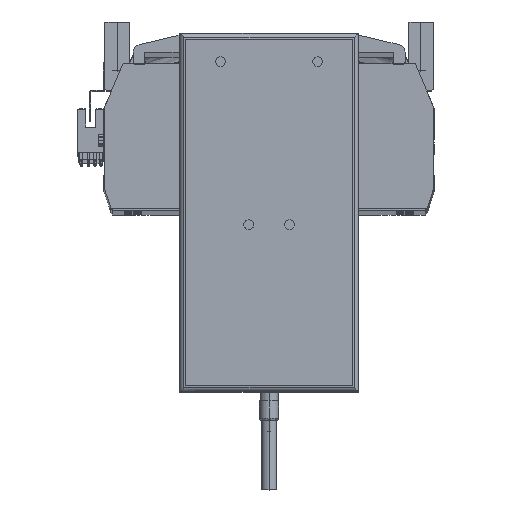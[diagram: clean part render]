
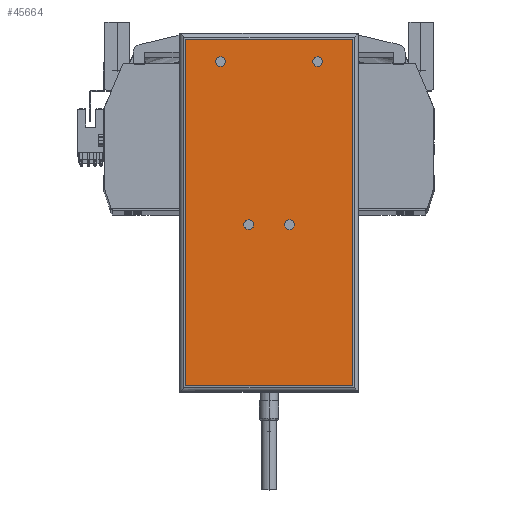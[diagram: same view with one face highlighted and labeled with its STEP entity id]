
A CAD part, top view. The second image highlights one B-rep face of the part: STEP entity #45664.
In plain terms, the highlighted planar face has unit normal (0, 0, 1) as drawn and (0, 0, -1) by its records, which use the part's own axes.
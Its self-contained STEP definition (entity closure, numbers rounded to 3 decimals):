
#64 = AXIS2_PLACEMENT_3D ( 'NONE', #33822, #25403, #412 ) ;
#213 = AXIS2_PLACEMENT_3D ( 'NONE', #50138, #24984, #28935 ) ;
#293 = EDGE_CURVE ( 'NONE', #30432, #20548, #17423, .T. ) ;
#412 = DIRECTION ( 'NONE',  ( -1., 0., 0. ) ) ;
#523 = DIRECTION ( 'NONE',  ( -1., 0., 0. ) ) ;
#831 = DIRECTION ( 'NONE',  ( 0., 0., -1. ) ) ;
#1346 = AXIS2_PLACEMENT_3D ( 'NONE', #8527, #12840, #41598 ) ;
#2247 = DIRECTION ( 'NONE',  ( 1., 0., 0. ) ) ;
#3184 = DIRECTION ( 'NONE',  ( 0., 0., -1. ) ) ;
#3582 = EDGE_LOOP ( 'NONE', ( #39022, #37813 ) ) ;
#4270 = FACE_BOUND ( 'NONE', #4846, .T. ) ;
#4846 = EDGE_LOOP ( 'NONE', ( #37902, #29557 ) ) ;
#5057 = CARTESIAN_POINT ( 'NONE',  ( -10.5, -6.25, 0. ) ) ;
#5773 = ORIENTED_EDGE ( 'NONE', *, *, #23756, .F. ) ;
#7582 = EDGE_CURVE ( 'NONE', #20548, #30432, #43148, .T. ) ;
#8258 = CARTESIAN_POINT ( 'NONE',  ( -22.5, 77.75, 0. ) ) ;
#8527 = CARTESIAN_POINT ( 'NONE',  ( 25., 77.75, 0. ) ) ;
#8998 = LINE ( 'NONE', #22198, #25102 ) ;
#9035 = ORIENTED_EDGE ( 'NONE', *, *, #32046, .T. ) ;
#9535 = VERTEX_POINT ( 'NONE', #45032 ) ;
#9662 = CIRCLE ( 'NONE', #213, 2.5 ) ;
#9986 = VERTEX_POINT ( 'NONE', #40287 ) ;
#10054 = FACE_BOUND ( 'NONE', #39498, .T. ) ;
#10243 = LINE ( 'NONE', #39160, #29546 ) ;
#10516 = CARTESIAN_POINT ( 'NONE',  ( 27.5, 77.75, 0. ) ) ;
#10673 = AXIS2_PLACEMENT_3D ( 'NONE', #16505, #24629, #48920 ) ;
#11799 = AXIS2_PLACEMENT_3D ( 'NONE', #5057, #13495, #38267 ) ;
#12840 = DIRECTION ( 'NONE',  ( 0., 0., -1. ) ) ;
#13077 = DIRECTION ( 'NONE',  ( 0., 0., -1. ) ) ;
#13495 = DIRECTION ( 'NONE',  ( 0., 0., -1. ) ) ;
#13505 = ORIENTED_EDGE ( 'NONE', *, *, #38613, .F. ) ;
#13679 = CARTESIAN_POINT ( 'NONE',  ( 43., -89.25, 0. ) ) ;
#14759 = LINE ( 'NONE', #47359, #40494 ) ;
#14989 = AXIS2_PLACEMENT_3D ( 'NONE', #41149, #13077, #523 ) ;
#15133 = ORIENTED_EDGE ( 'NONE', *, *, #21783, .F. ) ;
#15186 = FACE_OUTER_BOUND ( 'NONE', #22104, .T. ) ;
#15522 = CARTESIAN_POINT ( 'NONE',  ( 8., -6.25, 0. ) ) ;
#16505 = CARTESIAN_POINT ( 'NONE',  ( -25., 77.75, 0. ) ) ;
#16821 = AXIS2_PLACEMENT_3D ( 'NONE', #52247, #3184, #19324 ) ;
#16929 = EDGE_LOOP ( 'NONE', ( #13505, #25846 ) ) ;
#17108 = VERTEX_POINT ( 'NONE', #10516 ) ;
#17423 = CIRCLE ( 'NONE', #64, 2.5 ) ;
#17972 = EDGE_CURVE ( 'NONE', #49948, #43290, #50210, .T. ) ;
#18343 = EDGE_CURVE ( 'NONE', #44823, #34183, #8998, .T. ) ;
#19230 = EDGE_CURVE ( 'NONE', #51067, #44823, #10243, .T. ) ;
#19315 = CARTESIAN_POINT ( 'NONE',  ( 43., -92.25, 0. ) ) ;
#19324 = DIRECTION ( 'NONE',  ( -1., 0., 0. ) ) ;
#19606 = DIRECTION ( 'NONE',  ( 0., 0., 1. ) ) ;
#19787 = PLANE ( 'NONE',  #51363 ) ;
#20548 = VERTEX_POINT ( 'NONE', #43114 ) ;
#21783 = EDGE_CURVE ( 'NONE', #45246, #17108, #36317, .T. ) ;
#22104 = EDGE_LOOP ( 'NONE', ( #38227, #27893, #50676, #9035 ) ) ;
#22198 = CARTESIAN_POINT ( 'NONE',  ( -43., -92.25, 0. ) ) ;
#22654 = CARTESIAN_POINT ( 'NONE',  ( -43., 89.25, 0. ) ) ;
#23756 = EDGE_CURVE ( 'NONE', #17108, #45246, #32266, .T. ) ;
#24629 = DIRECTION ( 'NONE',  ( 0., 0., -1. ) ) ;
#24984 = DIRECTION ( 'NONE',  ( 0., 0., -1. ) ) ;
#25102 = VECTOR ( 'NONE', #30147, 1000. ) ;
#25403 = DIRECTION ( 'NONE',  ( 0., 0., -1. ) ) ;
#25477 = CARTESIAN_POINT ( 'NONE',  ( -10.5, -6.25, 0. ) ) ;
#25846 = ORIENTED_EDGE ( 'NONE', *, *, #17972, .F. ) ;
#27420 = FACE_BOUND ( 'NONE', #16929, .T. ) ;
#27893 = ORIENTED_EDGE ( 'NONE', *, *, #19230, .T. ) ;
#28935 = DIRECTION ( 'NONE',  ( -1., 0., 0. ) ) ;
#29337 = VECTOR ( 'NONE', #40533, 1000. ) ;
#29546 = VECTOR ( 'NONE', #38634, 1000. ) ;
#29557 = ORIENTED_EDGE ( 'NONE', *, *, #31540, .F. ) ;
#30147 = DIRECTION ( 'NONE',  ( 0., 1., 0. ) ) ;
#30432 = VERTEX_POINT ( 'NONE', #8258 ) ;
#31538 = EDGE_CURVE ( 'NONE', #37110, #9535, #37939, .T. ) ;
#31540 = EDGE_CURVE ( 'NONE', #9535, #37110, #9662, .T. ) ;
#32046 = EDGE_CURVE ( 'NONE', #34183, #9986, #14759, .T. ) ;
#32266 = CIRCLE ( 'NONE', #16821, 2.5 ) ;
#33822 = CARTESIAN_POINT ( 'NONE',  ( -25., 77.75, 0. ) ) ;
#34183 = VERTEX_POINT ( 'NONE', #22654 ) ;
#34701 = EDGE_CURVE ( 'NONE', #9986, #51067, #51193, .T. ) ;
#35242 = AXIS2_PLACEMENT_3D ( 'NONE', #25477, #831, #42362 ) ;
#36317 = CIRCLE ( 'NONE', #1346, 2.5 ) ;
#37110 = VERTEX_POINT ( 'NONE', #15522 ) ;
#37813 = ORIENTED_EDGE ( 'NONE', *, *, #293, .F. ) ;
#37902 = ORIENTED_EDGE ( 'NONE', *, *, #31538, .F. ) ;
#37939 = CIRCLE ( 'NONE', #14989, 2.5 ) ;
#38227 = ORIENTED_EDGE ( 'NONE', *, *, #34701, .T. ) ;
#38267 = DIRECTION ( 'NONE',  ( -1., 0., 0. ) ) ;
#38613 = EDGE_CURVE ( 'NONE', #43290, #49948, #46983, .T. ) ;
#38634 = DIRECTION ( 'NONE',  ( -1., 0., 0. ) ) ;
#39022 = ORIENTED_EDGE ( 'NONE', *, *, #7582, .F. ) ;
#39160 = CARTESIAN_POINT ( 'NONE',  ( -46., -89.25, 0. ) ) ;
#39498 = EDGE_LOOP ( 'NONE', ( #15133, #5773 ) ) ;
#40287 = CARTESIAN_POINT ( 'NONE',  ( 43., 89.25, 0. ) ) ;
#40494 = VECTOR ( 'NONE', #2247, 1000. ) ;
#40533 = DIRECTION ( 'NONE',  ( 0., -1., 0. ) ) ;
#41149 = CARTESIAN_POINT ( 'NONE',  ( 10.5, -6.25, 0. ) ) ;
#41598 = DIRECTION ( 'NONE',  ( -1., 0., 0. ) ) ;
#42362 = DIRECTION ( 'NONE',  ( -1., 0., 0. ) ) ;
#42860 = FACE_BOUND ( 'NONE', #3582, .T. ) ;
#42909 = CARTESIAN_POINT ( 'NONE',  ( -43., -89.25, 0. ) ) ;
#43114 = CARTESIAN_POINT ( 'NONE',  ( -27.5, 77.75, 0. ) ) ;
#43148 = CIRCLE ( 'NONE', #10673, 2.5 ) ;
#43290 = VERTEX_POINT ( 'NONE', #45877 ) ;
#44267 = DIRECTION ( 'NONE',  ( 1., 0., 0. ) ) ;
#44823 = VERTEX_POINT ( 'NONE', #42909 ) ;
#45032 = CARTESIAN_POINT ( 'NONE',  ( 13., -6.25, 0. ) ) ;
#45246 = VERTEX_POINT ( 'NONE', #46464 ) ;
#45664 = ADVANCED_FACE ( 'NONE', ( #15186, #27420, #4270, #42860, #10054 ), #19787, .F. ) ;
#45877 = CARTESIAN_POINT ( 'NONE',  ( -13., -6.25, 0. ) ) ;
#46262 = CARTESIAN_POINT ( 'NONE',  ( -8., -6.25, 0. ) ) ;
#46464 = CARTESIAN_POINT ( 'NONE',  ( 22.5, 77.75, 0. ) ) ;
#46983 = CIRCLE ( 'NONE', #11799, 2.5 ) ;
#47359 = CARTESIAN_POINT ( 'NONE',  ( -46., 89.25, 0. ) ) ;
#48575 = CARTESIAN_POINT ( 'NONE',  ( -46., -92.25, 0. ) ) ;
#48920 = DIRECTION ( 'NONE',  ( -1., 0., 0. ) ) ;
#49948 = VERTEX_POINT ( 'NONE', #46262 ) ;
#50138 = CARTESIAN_POINT ( 'NONE',  ( 10.5, -6.25, 0. ) ) ;
#50210 = CIRCLE ( 'NONE', #35242, 2.5 ) ;
#50676 = ORIENTED_EDGE ( 'NONE', *, *, #18343, .T. ) ;
#51067 = VERTEX_POINT ( 'NONE', #13679 ) ;
#51193 = LINE ( 'NONE', #19315, #29337 ) ;
#51363 = AXIS2_PLACEMENT_3D ( 'NONE', #48575, #19606, #44267 ) ;
#52247 = CARTESIAN_POINT ( 'NONE',  ( 25., 77.75, 0. ) ) ;
